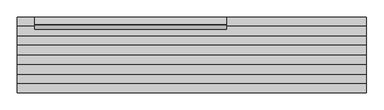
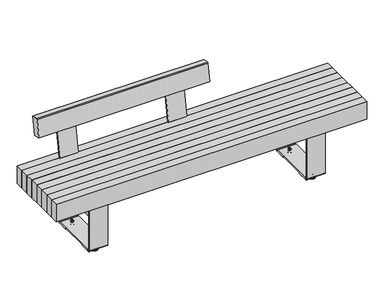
"""IFC4 building model written with IfcOpenShell, lengths in millimetres: furniture geometry, Roros Produkter - Femunden - Bench - 34365 : Roros Produkter - Femunden - Bench - 34365."""

from ifc_helpers import new_model, si_unit, point, frame, frame_2d, origin, place, context, project, spatial, polyline, circle_curve, ellipse_curve, trimmed, segment, composite_curve, outline, extrude, source, transform, mapped, element, save
from ifc_brep_helpers import plane_surface, cylinder_surface, revolved_surface, advanced_brep


def furniture_1bf54539(model_context):
    return source(origin(), model_context, "Body", "SolidModel", [
        advanced_brep(
        [(-640.0, 160.0527389, 465.6907007), (-640.0, 160.0527389, 349.7), (-640.0, 165.0527389, 349.7), (-640.0, 165.0527389, 465.2180282), (-640.0, 214.1546168, 755.6299996), (-640.0, 211.1768601, 755.6299996), (-760.0, 165.0527389, 465.2180282), (-760.0, 165.0527389, 349.7), (-760.0, 160.0527389, 349.7), (-760.0, 160.0527389, 465.6907007), (-760.0, 211.1768601, 755.6299996), (-760.0, 214.1546168, 755.6299996), (-645.0, 212.058495, 760.6299996), (-755.0, 212.058495, 760.6299996), (-755.0, 215.0, 760.6299996), (-645.0, 215.0, 760.6299996)],
        [
            (0, 1),
            (1, 2),
            (2, 3),
            (3, 4),
            (4, 5),
            (5, 0),
            (6, 7),
            (7, 8),
            (8, 9),
            (9, 10),
            (10, 11),
            (11, 6),
            (0, 9),
            (8, 1),
            (7, 2),
            (6, 3),
            (5, 12, ellipse_curve(frame((-645.0, 211.1768601, 755.6299996), z_axis=(0.0, -0.9848077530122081, 0.17364817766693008), x_axis=(0.0, 0.17364817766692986, 0.9848077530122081)), 5.0771331, 5.0)),
            (12, 13),
            (13, 10, ellipse_curve(frame((-755.0, 211.1768601, 755.6299996), z_axis=(0.0, -0.9848077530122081, 0.17364817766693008), x_axis=(0.0, 0.17364817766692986, 0.9848077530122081)), 5.0771331, 5.0)),
            (11, 14, ellipse_curve(frame((-755.0, 214.1546168, 755.6299996), z_axis=(0.0, 0.9860058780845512, -0.16671055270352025), x_axis=(0.0, 0.16671055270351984, 0.9860058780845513)), 5.0709637, 5.0)),
            (14, 15),
            (15, 4, ellipse_curve(frame((-645.0, 214.1546168, 755.6299996), z_axis=(0.0, 0.9860058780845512, -0.16671055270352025), x_axis=(0.0, 0.16671055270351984, 0.9860058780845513)), 5.0709637, 5.0)),
            (13, 14),
            (12, 15),
        ],
        [
            plane_surface(frame((-640.0, 160.0527389, 464.7720697), z_axis=(1.0, 0.0, 0.0), x_axis=(0.0, 0.0, -1.0))),
            plane_surface(frame((-760.0, 160.0527389, 464.7720697), z_axis=(-1.0, 0.0, 0.0), x_axis=(0.0, 0.0, 1.0))),
            plane_surface(frame((-640.0, 160.0527389, 465.6907007), z_axis=(0.0, -1.0, 0.0), x_axis=(-1.0, 0.0, 0.0))),
            plane_surface(frame((-640.0, 160.0527389, 349.7), z_axis=(0.0, 0.0, -1.0), x_axis=(-1.0, 0.0, 0.0))),
            plane_surface(frame((-640.0, 165.0527389, 349.7), z_axis=(0.0, 1.0, 0.0), x_axis=(-1.0, 0.0, 0.0))),
            plane_surface(frame((-640.0, 212.1471922, 761.1330266), z_axis=(0.0, -0.9848077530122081, 0.17364817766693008), x_axis=(-1.0, 0.0, 0.0))),
            plane_surface(frame((-640.0, 165.0527389, 465.2180282), z_axis=(0.0, 0.9860058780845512, -0.16671055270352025), x_axis=(-1.0, 0.0, 0.0))),
            cylinder_surface(frame((-755.0, 258.5708955, 755.6299996), z_axis=(0.0, 1.0, 0.0), x_axis=(1.0, 0.0, 0.0)), 5.0),
            plane_surface(frame((-755.0, 184.0, 760.6299996), z_axis=(0.0, 0.0, 1.0), x_axis=(0.0, 1.0, 0.0))),
            cylinder_surface(frame((-645.0, 258.5708955, 755.6299996), z_axis=(0.0, 1.0, 0.0), x_axis=(-1.0, 0.0, 0.0)), 5.0),
        ],
        [
            (0, [[1, 2, 3, 4, 5, 6]]),
            (1, [[7, 8, 9, 10, 11, 12]]),
            (2, [[-1, 13, -9, 14]]),
            (3, [[-2, -14, -8, 15]]),
            (4, [[-3, -15, -7, 16]]),
            (5, [[-13, -6, 17, 18, 19, -10]]),
            (6, [[-16, -12, 20, 21, 22, -4]]),
            (7, [[23, -20, -11, -19]]),
            (8, [[-23, -18, 24, -21]]),
            (9, [[-24, -17, -5, -22]]),
        ],
    ),
        advanced_brep(
        [(60.0, 160.0527389, 465.6907007), (60.0, 160.0527389, 349.7), (60.0, 165.0527389, 349.7), (60.0, 165.0527389, 465.2180282), (60.0, 214.1546168, 755.6299996), (60.0, 211.1768601, 755.6299996), (-60.0, 165.0527389, 465.2180282), (-60.0, 165.0527389, 349.7), (-60.0, 160.0527389, 349.7), (-60.0, 160.0527389, 465.6907007), (-60.0, 211.1768601, 755.6299996), (-60.0, 214.1546168, 755.6299996), (55.0, 212.058495, 760.6299996), (-55.0, 212.058495, 760.6299996), (-55.0, 215.0, 760.6299996), (55.0, 215.0, 760.6299996)],
        [
            (0, 1),
            (1, 2),
            (2, 3),
            (3, 4),
            (4, 5),
            (5, 0),
            (6, 7),
            (7, 8),
            (8, 9),
            (9, 10),
            (10, 11),
            (11, 6),
            (0, 9),
            (8, 1),
            (7, 2),
            (6, 3),
            (5, 12, ellipse_curve(frame((55.0, 211.1768601, 755.6299996), z_axis=(0.0, -0.9848077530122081, 0.17364817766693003), x_axis=(0.0, 0.17364817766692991, 0.9848077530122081)), 5.0771331, 5.0)),
            (12, 13),
            (13, 10, ellipse_curve(frame((-55.0, 211.1768601, 755.6299996), z_axis=(0.0, -0.9848077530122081, 0.17364817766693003), x_axis=(0.0, 0.17364817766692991, 0.9848077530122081)), 5.0771331, 5.0)),
            (11, 14, ellipse_curve(frame((-55.0, 214.1546168, 755.6299996), z_axis=(0.0, 0.9860058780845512, -0.16671055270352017), x_axis=(0.0, 0.16671055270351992, 0.9860058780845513)), 5.0709637, 5.0)),
            (14, 15),
            (15, 4, ellipse_curve(frame((55.0, 214.1546168, 755.6299996), z_axis=(0.0, 0.9860058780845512, -0.16671055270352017), x_axis=(0.0, 0.16671055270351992, 0.9860058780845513)), 5.0709637, 5.0)),
            (13, 14),
            (12, 15),
        ],
        [
            plane_surface(frame((60.0, 160.0527389, 464.7720697), z_axis=(1.0, 0.0, 0.0), x_axis=(0.0, 0.0, -1.0))),
            plane_surface(frame((-60.0, 160.0527389, 464.7720697), z_axis=(-1.0, 0.0, 0.0), x_axis=(0.0, 0.0, 1.0))),
            plane_surface(frame((60.0, 160.0527389, 465.6907007), z_axis=(0.0, -1.0, 0.0), x_axis=(-1.0, 0.0, 0.0))),
            plane_surface(frame((60.0, 160.0527389, 349.7), z_axis=(0.0, 0.0, -1.0), x_axis=(-1.0, 0.0, 0.0))),
            plane_surface(frame((60.0, 165.0527389, 349.7), z_axis=(0.0, 1.0, 0.0), x_axis=(-1.0, 0.0, 0.0))),
            plane_surface(frame((60.0, 212.1471922, 761.1330266), z_axis=(0.0, -0.9848077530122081, 0.17364817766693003), x_axis=(-1.0, 0.0, 0.0))),
            plane_surface(frame((60.0, 165.0527389, 465.2180282), z_axis=(0.0, 0.9860058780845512, -0.16671055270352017), x_axis=(-1.0, 0.0, 0.0))),
            cylinder_surface(frame((-55.0, -115.0, 755.6299996), z_axis=(0.0, 1.0, 0.0), x_axis=(1.0, 0.0, 0.0)), 5.0),
            plane_surface(frame((-55.0, 184.0, 760.6299996), z_axis=(0.0, 0.0, 1.0), x_axis=(0.0, 1.0, 0.0))),
            cylinder_surface(frame((55.0, -115.0, 755.6299996), z_axis=(0.0, 1.0, 0.0), x_axis=(-1.0, 0.0, 0.0)), 5.0),
        ],
        [
            (0, [[1, 2, 3, 4, 5, 6]]),
            (1, [[7, 8, 9, 10, 11, 12]]),
            (2, [[-1, 13, -9, 14]]),
            (3, [[-2, -14, -8, 15]]),
            (4, [[-3, -15, -7, 16]]),
            (5, [[-13, -6, 17, 18, 19, -10]]),
            (6, [[-16, -12, 20, 21, 22, -4]]),
            (7, [[23, -20, -11, -19]]),
            (8, [[-23, -18, 24, -21]]),
            (9, [[-24, -17, -5, -22]]),
        ],
    ),
        extrude(outline(composite_curve([segment(polyline([(172.4690095, 778.2836269), (215.0, 770.7842657), (192.9931538, 652.8134731), (148.6768049, 660.6276411), (168.9936417, 775.8501482)]), True, "CONTINUOUS"), segment(trimmed(circle_curve(frame_2d((171.9480649, 775.3292036)), 3.0), [point((168.9936417, 775.8501482))], [point((172.4690095, 778.2836269))], False, "CARTESIAN"), True, "CONTINUOUS")], self_intersect=False)), frame((-900.0, 0.0, 0.0), z_axis=(1.0, 0.0, 0.0), x_axis=(0.0, 1.0, 0.0)), (0.0, 0.0, 1.0), 1100.0),
        extrude(outline(composite_curve([segment(trimmed(circle_curve(frame_2d((719.15, 154.0)), 6.0), [point((725.15, 154.0))], [point((719.15, 160.0))], True, "CARTESIAN"), True, "CONTINUOUS"), segment(polyline([(719.15, 160.0), (680.15, 160.0), (680.15, 165.0), (720.15, 165.0)]), True, "CONTINUOUS"), segment(trimmed(circle_curve(frame_2d((720.15, 155.0)), 10.0), [point((720.15, 165.0))], [point((730.15, 155.0))], False, "CARTESIAN"), True, "CONTINUOUS"), segment(polyline([(730.15, 155.0), (730.15, -154.0)]), True, "CONTINUOUS"), segment(trimmed(circle_curve(frame_2d((720.15, -154.0)), 10.0), [point((730.15, -154.0))], [point((720.15, -164.0))], False, "CARTESIAN"), True, "CONTINUOUS"), segment(polyline([(720.15, -164.0), (680.15, -164.0), (680.15, -159.0), (719.15, -159.0)]), True, "CONTINUOUS"), segment(trimmed(circle_curve(frame_2d((719.15, -153.0)), 6.0), [point((719.15, -159.0))], [point((725.15, -153.0))], True, "CARTESIAN"), True, "CONTINUOUS"), segment(polyline([(725.15, -153.0), (725.15, 154.0)]), True, "CONTINUOUS")], self_intersect=False)), frame((0.0, 0.0, 225.6), z_axis=(0.0, 0.0, 1.0), x_axis=(1.0, 0.0, 0.0)), (0.0, 0.0, 1.0), 90.0),
        advanced_brep(
        [(700.0, -119.5, 43.4), (700.0, -129.5, 43.4), (700.0, -133.0, 43.4), (700.0, -116.0, 43.4), (700.0, -119.5, 48.0), (700.0, -129.5, 48.0), (700.0, -124.5, 48.0), (700.0, -104.5, 0.0), (700.0, -144.5, 0.0), (700.0, -124.5, 0.0), (700.0, -104.5, 4.3619998), (700.0, -144.5, 4.3619998), (700.0, -105.4699238, 6.0763344), (700.0, -143.5300761, 6.0763344), (700.0, -112.0, 10.0), (700.0, -137.0, 10.0), (700.0, -115.25, 10.0), (700.0, -133.75, 10.0), (700.0, -115.25, 12.0), (700.0, -133.75, 12.0), (700.0, -117.584004, 12.0), (700.0, -131.415996, 12.0), (700.0, -117.584004, 18.0), (700.0, -131.415996, 18.0), (700.0, -116.0, 18.0), (700.0, -133.0, 18.0), (700.0, -116.0, 25.7), (700.0, -133.0, 25.7), (700.0, -119.5, 25.7), (700.0, -129.5, 25.7), (700.0, -119.5, 35.7), (700.0, -129.5, 35.7), (700.0, -116.0, 35.7), (700.0, -133.0, 35.7)],
        [
            (0, 1, circle_curve(frame((700.0, -124.5, 43.4), z_axis=(0.0, 0.0, -1.0), x_axis=(0.0, -1.0, 0.0)), 5.0)),
            (1, 2),
            (2, 3, circle_curve(frame((700.0, -124.5, 43.4), z_axis=(0.0, 0.0, 1.0), x_axis=(0.0, -1.0, 0.0)), 8.5)),
            (3, 0),
            (1, 0, circle_curve(frame((700.0, -124.5, 43.4), z_axis=(0.0, 0.0, -1.0), x_axis=(0.0, -1.0, 0.0)), 5.0)),
            (3, 2, circle_curve(frame((700.0, -124.5, 43.4), z_axis=(0.0, 0.0, 1.0), x_axis=(0.0, -1.0, 0.0)), 8.5)),
            (4, 5, circle_curve(frame((700.0, -124.5, 48.0), z_axis=(0.0, 0.0, -1.0), x_axis=(0.0, -1.0, 0.0)), 5.0)),
            (5, 1),
            (0, 4),
            (5, 4, circle_curve(frame((700.0, -124.5, 48.0), z_axis=(0.0, 0.0, -1.0), x_axis=(0.0, -1.0, 0.0)), 5.0)),
            (6, 5),
            (4, 6),
            (7, 8, circle_curve(frame((700.0, -124.5, 0.0), z_axis=(0.0, 0.0, -1.0), x_axis=(0.0, -1.0, 0.0)), 20.0)),
            (8, 9),
            (9, 7),
            (8, 7, circle_curve(frame((700.0, -124.5, 0.0), z_axis=(0.0, 0.0, -1.0), x_axis=(0.0, -1.0, 0.0)), 20.0)),
            (10, 11, circle_curve(frame((700.0, -124.5, 4.3619998), z_axis=(0.0, 0.0, -1.0), x_axis=(0.0, -1.0, 0.0)), 20.0)),
            (11, 8),
            (7, 10),
            (11, 10, circle_curve(frame((700.0, -124.5, 4.3619998), z_axis=(0.0, 0.0, -1.0), x_axis=(0.0, -1.0, 0.0)), 20.0)),
            (12, 13, circle_curve(frame((700.0, -124.5, 6.0763344), z_axis=(0.0, 0.0, -1.0), x_axis=(0.0, -1.0, 0.0)), 19.0300761)),
            (13, 11, circle_curve(frame((700.0, -142.5, 4.3619998), z_axis=(1.0, 0.0, 0.0), x_axis=(0.0, 1.0, 0.0)), 2.0)),
            (10, 12, circle_curve(frame((700.0, -106.5, 4.3619998), z_axis=(1.0, 0.0, 0.0), x_axis=(0.0, -1.0, 0.0)), 2.0)),
            (13, 12, circle_curve(frame((700.0, -124.5, 6.0763344), z_axis=(0.0, 0.0, -1.0), x_axis=(0.0, -1.0, 0.0)), 19.0300761)),
            (14, 15, circle_curve(frame((700.0, -124.5, 10.0), z_axis=(0.0, 0.0, -1.0), x_axis=(0.0, -1.0, 0.0)), 12.5)),
            (15, 13),
            (12, 14),
            (15, 14, circle_curve(frame((700.0, -124.5, 10.0), z_axis=(0.0, 0.0, -1.0), x_axis=(0.0, -1.0, 0.0)), 12.5)),
            (16, 17, circle_curve(frame((700.0, -124.5, 10.0), z_axis=(0.0, 0.0, -1.0), x_axis=(0.0, -1.0, 0.0)), 9.25)),
            (17, 15),
            (14, 16),
            (17, 16, circle_curve(frame((700.0, -124.5, 10.0), z_axis=(0.0, 0.0, -1.0), x_axis=(0.0, -1.0, 0.0)), 9.25)),
            (18, 19, circle_curve(frame((700.0, -124.5, 12.0), z_axis=(0.0, 0.0, -1.0), x_axis=(0.0, -1.0, 0.0)), 9.25)),
            (19, 17),
            (16, 18),
            (19, 18, circle_curve(frame((700.0, -124.5, 12.0), z_axis=(0.0, 0.0, -1.0), x_axis=(0.0, -1.0, 0.0)), 9.25)),
            (20, 21, circle_curve(frame((700.0, -124.5, 12.0), z_axis=(0.0, 0.0, -1.0), x_axis=(0.0, -1.0, 0.0)), 6.915996)),
            (21, 19),
            (18, 20),
            (21, 20, circle_curve(frame((700.0, -124.5, 12.0), z_axis=(0.0, 0.0, -1.0), x_axis=(0.0, -1.0, 0.0)), 6.915996)),
            (22, 23, circle_curve(frame((700.0, -124.5, 18.0), z_axis=(0.0, 0.0, -1.0), x_axis=(0.0, -1.0, 0.0)), 6.915996)),
            (23, 21),
            (20, 22),
            (23, 22, circle_curve(frame((700.0, -124.5, 18.0), z_axis=(0.0, 0.0, -1.0), x_axis=(0.0, -1.0, 0.0)), 6.915996)),
            (24, 25, circle_curve(frame((700.0, -124.5, 18.0), z_axis=(0.0, 0.0, -1.0), x_axis=(0.0, -1.0, 0.0)), 8.5)),
            (25, 23),
            (22, 24),
            (25, 24, circle_curve(frame((700.0, -124.5, 18.0), z_axis=(0.0, 0.0, -1.0), x_axis=(0.0, -1.0, 0.0)), 8.5)),
            (26, 27, circle_curve(frame((700.0, -124.5, 25.7), z_axis=(0.0, 0.0, -1.0), x_axis=(0.0, -1.0, 0.0)), 8.5)),
            (27, 25),
            (24, 26),
            (27, 26, circle_curve(frame((700.0, -124.5, 25.7), z_axis=(0.0, 0.0, -1.0), x_axis=(0.0, -1.0, 0.0)), 8.5)),
            (28, 29, circle_curve(frame((700.0, -124.5, 25.7), z_axis=(0.0, 0.0, -1.0), x_axis=(0.0, -1.0, 0.0)), 5.0)),
            (29, 27),
            (26, 28),
            (29, 28, circle_curve(frame((700.0, -124.5, 25.7), z_axis=(0.0, 0.0, -1.0), x_axis=(0.0, -1.0, 0.0)), 5.0)),
            (30, 31, circle_curve(frame((700.0, -124.5, 35.7), z_axis=(0.0, 0.0, -1.0), x_axis=(0.0, -1.0, 0.0)), 5.0)),
            (31, 29),
            (28, 30),
            (31, 30, circle_curve(frame((700.0, -124.5, 35.7), z_axis=(0.0, 0.0, -1.0), x_axis=(0.0, -1.0, 0.0)), 5.0)),
            (32, 33, circle_curve(frame((700.0, -124.5, 35.7), z_axis=(0.0, 0.0, -1.0), x_axis=(0.0, -1.0, 0.0)), 8.5)),
            (33, 31),
            (30, 32),
            (33, 32, circle_curve(frame((700.0, -124.5, 35.7), z_axis=(0.0, 0.0, -1.0), x_axis=(0.0, -1.0, 0.0)), 8.5)),
            (2, 33),
            (32, 3),
        ],
        [
            plane_surface(frame((700.0, -124.5, 43.4), z_axis=(0.0, 0.0, 1.0), x_axis=(0.0, -1.0, 0.0))),
            cylinder_surface(frame((700.0, -124.5, 48.0), z_axis=(0.0, 0.0, 1.0), x_axis=(0.0, -1.0, 0.0)), 5.0),
            plane_surface(frame((700.0, -124.5, 48.0), z_axis=(0.0, 0.0, 1.0), x_axis=(0.0, -1.0, 0.0))),
            plane_surface(frame((700.0, -124.5, 0.0), z_axis=(0.0, 0.0, -1.0), x_axis=(0.0, -1.0, 0.0))),
            cylinder_surface(frame((700.0, -124.5, 48.0), z_axis=(0.0, 0.0, 1.0), x_axis=(0.0, -1.0, 0.0)), 20.0),
            revolved_surface(trimmed(ellipse_curve(frame((700.0, -142.5, 4.3619998), z_axis=(-1.0, 0.0, 0.0), x_axis=(0.0, 1.0, 0.0)), 2.0, 2.0), [point((700.0, -144.5, 4.3619998))], [point((700.0, -143.5300761, 6.0763344))], True, "CARTESIAN"), (700.0, -124.5, 48.0), (0.0, 0.0, 1.0)),
            revolved_surface(polyline([(700.0, -143.5300761, 6.0763344), (700.0, -137.0, 10.0)]), (700.0, -124.5, 48.0), (0.0, 0.0, 1.0)),
            plane_surface(frame((700.0, -124.5, 10.0), z_axis=(0.0, 0.0, 1.0), x_axis=(0.0, -1.0, 0.0))),
            cylinder_surface(frame((700.0, -124.5, 48.0), z_axis=(0.0, 0.0, 1.0), x_axis=(0.0, -1.0, 0.0)), 9.25),
            plane_surface(frame((700.0, -124.5, 12.0), z_axis=(0.0, 0.0, 1.0), x_axis=(0.0, -1.0, 0.0))),
            cylinder_surface(frame((700.0, -124.5, 48.0), z_axis=(0.0, 0.0, 1.0), x_axis=(0.0, -1.0, 0.0)), 6.915996),
            plane_surface(frame((700.0, -124.5, 18.0), z_axis=(0.0, 0.0, -1.0), x_axis=(0.0, -1.0, 0.0))),
            cylinder_surface(frame((700.0, -124.5, 48.0), z_axis=(0.0, 0.0, 1.0), x_axis=(0.0, -1.0, 0.0)), 8.5),
            plane_surface(frame((700.0, -124.5, 25.7), z_axis=(0.0, 0.0, 1.0), x_axis=(0.0, -1.0, 0.0))),
            plane_surface(frame((700.0, -124.5, 35.7), z_axis=(0.0, 0.0, -1.0), x_axis=(0.0, -1.0, 0.0))),
        ],
        [
            (0, [[1, 2, 3, 4]]),
            (0, [[5, -4, 6, -2]]),
            (1, [[7, 8, -1, 9]]),
            (1, [[10, -9, -5, -8]]),
            (2, [[11, -7, 12]]),
            (2, [[-12, -10, -11]]),
            (3, [[13, 14, 15]]),
            (3, [[16, -15, -14]]),
            (4, [[17, 18, -13, 19]]),
            (4, [[20, -19, -16, -18]]),
            (5, [[21, 22, -17, 23]]),
            (5, [[24, -23, -20, -22]]),
            (6, [[25, 26, -21, 27]]),
            (6, [[28, -27, -24, -26]]),
            (7, [[29, 30, -25, 31]]),
            (7, [[32, -31, -28, -30]]),
            (8, [[33, 34, -29, 35]]),
            (8, [[36, -35, -32, -34]]),
            (9, [[37, 38, -33, 39]]),
            (9, [[40, -39, -36, -38]]),
            (10, [[41, 42, -37, 43]]),
            (10, [[44, -43, -40, -42]]),
            (11, [[45, 46, -41, 47]]),
            (11, [[48, -47, -44, -46]]),
            (12, [[49, 50, -45, 51]]),
            (12, [[52, -51, -48, -50]]),
            (13, [[53, 54, -49, 55]]),
            (13, [[56, -55, -52, -54]]),
            (1, [[57, 58, -53, 59]]),
            (1, [[60, -59, -56, -58]]),
            (14, [[61, 62, -57, 63]]),
            (14, [[64, -63, -60, -62]]),
            (12, [[-3, 65, -61, 66]]),
            (12, [[-6, -66, -64, -65]]),
        ],
    ),
        advanced_brep(
        [(700.0, 116.0, 43.4), (700.0, 133.0, 43.4), (700.0, 129.5, 43.4), (700.0, 119.5, 43.4), (700.0, 129.5, 48.0), (700.0, 119.5, 48.0), (700.0, 124.5, 48.0), (700.0, 124.5, 0.0), (700.0, 144.5, 0.0), (700.0, 104.5, 0.0), (700.0, 144.5, 4.3619998), (700.0, 104.5, 4.3619998), (700.0, 143.5300761, 6.0763344), (700.0, 105.4699238, 6.0763344), (700.0, 137.0, 10.0), (700.0, 112.0, 10.0), (700.0, 133.75, 10.0), (700.0, 115.25, 10.0), (700.0, 133.75, 12.0), (700.0, 115.25, 12.0), (700.0, 131.415996, 12.0), (700.0, 117.584004, 12.0), (700.0, 131.415996, 18.0), (700.0, 117.584004, 18.0), (700.0, 133.0, 18.0), (700.0, 116.0, 18.0), (700.0, 133.0, 25.7), (700.0, 116.0, 25.7), (700.0, 129.5, 25.7), (700.0, 119.5, 25.7), (700.0, 129.5, 35.7), (700.0, 119.5, 35.7), (700.0, 133.0, 35.7), (700.0, 116.0, 35.7)],
        [
            (0, 1, circle_curve(frame((700.0, 124.5, 43.4), z_axis=(0.0, 0.0, 1.0), x_axis=(0.0, 1.0, 0.0)), 8.5)),
            (1, 2),
            (2, 3, circle_curve(frame((700.0, 124.5, 43.4), z_axis=(0.0, 0.0, -1.0), x_axis=(0.0, 1.0, 0.0)), 5.0)),
            (3, 0),
            (1, 0, circle_curve(frame((700.0, 124.5, 43.4), z_axis=(0.0, 0.0, 1.0), x_axis=(0.0, 1.0, 0.0)), 8.5)),
            (3, 2, circle_curve(frame((700.0, 124.5, 43.4), z_axis=(0.0, 0.0, -1.0), x_axis=(0.0, 1.0, 0.0)), 5.0)),
            (2, 4),
            (4, 5, circle_curve(frame((700.0, 124.5, 48.0), z_axis=(0.0, 0.0, -1.0), x_axis=(0.0, 1.0, 0.0)), 5.0)),
            (5, 3),
            (5, 4, circle_curve(frame((700.0, 124.5, 48.0), z_axis=(0.0, 0.0, -1.0), x_axis=(0.0, 1.0, 0.0)), 5.0)),
            (4, 6),
            (6, 5),
            (7, 8),
            (8, 9, circle_curve(frame((700.0, 124.5, 0.0), z_axis=(0.0, 0.0, -1.0), x_axis=(0.0, 1.0, 0.0)), 20.0)),
            (9, 7),
            (9, 8, circle_curve(frame((700.0, 124.5, 0.0), z_axis=(0.0, 0.0, -1.0), x_axis=(0.0, 1.0, 0.0)), 20.0)),
            (8, 10),
            (10, 11, circle_curve(frame((700.0, 124.5, 4.3619998), z_axis=(0.0, 0.0, -1.0), x_axis=(0.0, 1.0, 0.0)), 20.0)),
            (11, 9),
            (11, 10, circle_curve(frame((700.0, 124.5, 4.3619998), z_axis=(0.0, 0.0, -1.0), x_axis=(0.0, 1.0, 0.0)), 20.0)),
            (10, 12, circle_curve(frame((700.0, 142.5, 4.3619998), z_axis=(1.0, 0.0, 0.0), x_axis=(0.0, -1.0, 0.0)), 2.0)),
            (12, 13, circle_curve(frame((700.0, 124.5, 6.0763344), z_axis=(0.0, 0.0, -1.0), x_axis=(0.0, 1.0, 0.0)), 19.0300761)),
            (13, 11, circle_curve(frame((700.0, 106.5, 4.3619998), z_axis=(1.0, 0.0, 0.0), x_axis=(0.0, 1.0, 0.0)), 2.0)),
            (13, 12, circle_curve(frame((700.0, 124.5, 6.0763344), z_axis=(0.0, 0.0, -1.0), x_axis=(0.0, 1.0, 0.0)), 19.0300761)),
            (12, 14),
            (14, 15, circle_curve(frame((700.0, 124.5, 10.0), z_axis=(0.0, 0.0, -1.0), x_axis=(0.0, 1.0, 0.0)), 12.5)),
            (15, 13),
            (15, 14, circle_curve(frame((700.0, 124.5, 10.0), z_axis=(0.0, 0.0, -1.0), x_axis=(0.0, 1.0, 0.0)), 12.5)),
            (14, 16),
            (16, 17, circle_curve(frame((700.0, 124.5, 10.0), z_axis=(0.0, 0.0, -1.0), x_axis=(0.0, 1.0, 0.0)), 9.25)),
            (17, 15),
            (17, 16, circle_curve(frame((700.0, 124.5, 10.0), z_axis=(0.0, 0.0, -1.0), x_axis=(0.0, 1.0, 0.0)), 9.25)),
            (16, 18),
            (18, 19, circle_curve(frame((700.0, 124.5, 12.0), z_axis=(0.0, 0.0, -1.0), x_axis=(0.0, 1.0, 0.0)), 9.25)),
            (19, 17),
            (19, 18, circle_curve(frame((700.0, 124.5, 12.0), z_axis=(0.0, 0.0, -1.0), x_axis=(0.0, 1.0, 0.0)), 9.25)),
            (18, 20),
            (20, 21, circle_curve(frame((700.0, 124.5, 12.0), z_axis=(0.0, 0.0, -1.0), x_axis=(0.0, 1.0, 0.0)), 6.915996)),
            (21, 19),
            (21, 20, circle_curve(frame((700.0, 124.5, 12.0), z_axis=(0.0, 0.0, -1.0), x_axis=(0.0, 1.0, 0.0)), 6.915996)),
            (20, 22),
            (22, 23, circle_curve(frame((700.0, 124.5, 18.0), z_axis=(0.0, 0.0, -1.0), x_axis=(0.0, 1.0, 0.0)), 6.915996)),
            (23, 21),
            (23, 22, circle_curve(frame((700.0, 124.5, 18.0), z_axis=(0.0, 0.0, -1.0), x_axis=(0.0, 1.0, 0.0)), 6.915996)),
            (22, 24),
            (24, 25, circle_curve(frame((700.0, 124.5, 18.0), z_axis=(0.0, 0.0, -1.0), x_axis=(0.0, 1.0, 0.0)), 8.5)),
            (25, 23),
            (25, 24, circle_curve(frame((700.0, 124.5, 18.0), z_axis=(0.0, 0.0, -1.0), x_axis=(0.0, 1.0, 0.0)), 8.5)),
            (24, 26),
            (26, 27, circle_curve(frame((700.0, 124.5, 25.7), z_axis=(0.0, 0.0, -1.0), x_axis=(0.0, 1.0, 0.0)), 8.5)),
            (27, 25),
            (27, 26, circle_curve(frame((700.0, 124.5, 25.7), z_axis=(0.0, 0.0, -1.0), x_axis=(0.0, 1.0, 0.0)), 8.5)),
            (26, 28),
            (28, 29, circle_curve(frame((700.0, 124.5, 25.7), z_axis=(0.0, 0.0, -1.0), x_axis=(0.0, 1.0, 0.0)), 5.0)),
            (29, 27),
            (29, 28, circle_curve(frame((700.0, 124.5, 25.7), z_axis=(0.0, 0.0, -1.0), x_axis=(0.0, 1.0, 0.0)), 5.0)),
            (28, 30),
            (30, 31, circle_curve(frame((700.0, 124.5, 35.7), z_axis=(0.0, 0.0, -1.0), x_axis=(0.0, 1.0, 0.0)), 5.0)),
            (31, 29),
            (31, 30, circle_curve(frame((700.0, 124.5, 35.7), z_axis=(0.0, 0.0, -1.0), x_axis=(0.0, 1.0, 0.0)), 5.0)),
            (30, 32),
            (32, 33, circle_curve(frame((700.0, 124.5, 35.7), z_axis=(0.0, 0.0, -1.0), x_axis=(0.0, 1.0, 0.0)), 8.5)),
            (33, 31),
            (33, 32, circle_curve(frame((700.0, 124.5, 35.7), z_axis=(0.0, 0.0, -1.0), x_axis=(0.0, 1.0, 0.0)), 8.5)),
            (32, 1),
            (0, 33),
        ],
        [
            plane_surface(frame((700.0, 124.5, 43.4), z_axis=(0.0, 0.0, 1.0), x_axis=(0.0, 1.0, 0.0))),
            cylinder_surface(frame((700.0, 124.5, 48.0), z_axis=(0.0, 0.0, -1.0), x_axis=(0.0, 1.0, 0.0)), 5.0),
            plane_surface(frame((700.0, 124.5, 48.0), z_axis=(0.0, 0.0, 1.0), x_axis=(0.0, 1.0, 0.0))),
            plane_surface(frame((700.0, 124.5, 0.0), z_axis=(0.0, 0.0, -1.0), x_axis=(0.0, 1.0, 0.0))),
            cylinder_surface(frame((700.0, 124.5, 48.0), z_axis=(0.0, 0.0, -1.0), x_axis=(0.0, 1.0, 0.0)), 20.0),
            revolved_surface(trimmed(ellipse_curve(frame((700.0, 142.5, 4.3619998), z_axis=(-1.0, 0.0, 0.0), x_axis=(0.0, -1.0, 0.0)), 2.0, 2.0), [point((700.0, 143.5300761, 6.0763344))], [point((700.0, 144.5, 4.3619998))], True, "CARTESIAN"), (700.0, 124.5, 48.0), (0.0, 0.0, -1.0)),
            revolved_surface(polyline([(700.0, 137.0, 10.0), (700.0, 143.5300761, 6.0763344)]), (700.0, 124.5, 48.0), (0.0, 0.0, -1.0)),
            plane_surface(frame((700.0, 124.5, 10.0), z_axis=(0.0, 0.0, 1.0), x_axis=(0.0, 1.0, 0.0))),
            cylinder_surface(frame((700.0, 124.5, 48.0), z_axis=(0.0, 0.0, -1.0), x_axis=(0.0, 1.0, 0.0)), 9.25),
            plane_surface(frame((700.0, 124.5, 12.0), z_axis=(0.0, 0.0, 1.0), x_axis=(0.0, 1.0, 0.0))),
            cylinder_surface(frame((700.0, 124.5, 48.0), z_axis=(0.0, 0.0, -1.0), x_axis=(0.0, 1.0, 0.0)), 6.915996),
            plane_surface(frame((700.0, 124.5, 18.0), z_axis=(0.0, 0.0, -1.0), x_axis=(0.0, 1.0, 0.0))),
            cylinder_surface(frame((700.0, 124.5, 48.0), z_axis=(0.0, 0.0, -1.0), x_axis=(0.0, 1.0, 0.0)), 8.5),
            plane_surface(frame((700.0, 124.5, 25.7), z_axis=(0.0, 0.0, 1.0), x_axis=(0.0, 1.0, 0.0))),
            plane_surface(frame((700.0, 124.5, 35.7), z_axis=(0.0, 0.0, -1.0), x_axis=(0.0, 1.0, 0.0))),
        ],
        [
            (0, [[1, 2, 3, 4]]),
            (0, [[5, -4, 6, -2]]),
            (1, [[-3, 7, 8, 9]]),
            (1, [[-6, -9, 10, -7]]),
            (2, [[-8, 11, 12]]),
            (2, [[-10, -12, -11]]),
            (3, [[13, 14, 15]]),
            (3, [[-15, 16, -13]]),
            (4, [[-14, 17, 18, 19]]),
            (4, [[-16, -19, 20, -17]]),
            (5, [[-18, 21, 22, 23]]),
            (5, [[-20, -23, 24, -21]]),
            (6, [[-22, 25, 26, 27]]),
            (6, [[-24, -27, 28, -25]]),
            (7, [[-26, 29, 30, 31]]),
            (7, [[-28, -31, 32, -29]]),
            (8, [[-30, 33, 34, 35]]),
            (8, [[-32, -35, 36, -33]]),
            (9, [[-34, 37, 38, 39]]),
            (9, [[-36, -39, 40, -37]]),
            (10, [[-38, 41, 42, 43]]),
            (10, [[-40, -43, 44, -41]]),
            (11, [[-42, 45, 46, 47]]),
            (11, [[-44, -47, 48, -45]]),
            (12, [[-46, 49, 50, 51]]),
            (12, [[-48, -51, 52, -49]]),
            (13, [[-50, 53, 54, 55]]),
            (13, [[-52, -55, 56, -53]]),
            (1, [[-54, 57, 58, 59]]),
            (1, [[-56, -59, 60, -57]]),
            (14, [[-58, 61, 62, 63]]),
            (14, [[-60, -63, 64, -61]]),
            (12, [[-62, 65, -1, 66]]),
            (12, [[-64, -66, -5, -65]]),
        ],
    ),
        extrude(outline(composite_curve([segment(polyline([(165.0, 441.7), (170.0, 441.7), (170.0, 35.7)]), True, "CONTINUOUS"), segment(trimmed(circle_curve(frame_2d((160.0, 35.7)), 10.0), [point((170.0, 35.7))], [point((160.0, 25.7))], False, "CARTESIAN"), True, "CONTINUOUS"), segment(polyline([(160.0, 25.7), (90.0, 25.7), (90.0, 30.7), (-90.0, 30.7), (-90.0, 25.7), (-160.0, 25.7)]), True, "CONTINUOUS"), segment(trimmed(circle_curve(frame_2d((-160.0, 35.7)), 10.0), [point((-160.0, 25.7))], [point((-170.0, 35.7))], False, "CARTESIAN"), True, "CONTINUOUS"), segment(polyline([(-170.0, 35.7), (-170.0, 441.7), (-165.0, 441.7), (-165.0, 36.7)]), True, "CONTINUOUS"), segment(trimmed(circle_curve(frame_2d((-159.0, 36.7)), 6.0), [point((-165.0, 36.7))], [point((-159.0, 30.7))], True, "CARTESIAN"), True, "CONTINUOUS"), segment(polyline([(-159.0, 30.7), (-154.0, 30.7), (-154.0, 35.7), (154.0, 35.7), (154.0, 30.7), (159.0, 30.7)]), True, "CONTINUOUS"), segment(trimmed(circle_curve(frame_2d((159.0, 36.7)), 6.0), [point((159.0, 30.7))], [point((165.0, 36.7))], True, "CARTESIAN"), True, "CONTINUOUS"), segment(polyline([(165.0, 36.7), (165.0, 441.7)]), True, "CONTINUOUS")], self_intersect=False)), frame((640.0, 0.0, 0.0), z_axis=(1.0, 0.0, 0.0), x_axis=(0.0, 1.0, 0.0)), (0.0, 0.0, 1.0), 120.0),
        extrude(outline(composite_curve([segment(polyline([(-725.15, 154.0), (-725.15, -153.0)]), True, "CONTINUOUS"), segment(trimmed(circle_curve(frame_2d((-719.15, -153.0)), 6.0), [point((-725.15, -153.0))], [point((-719.15, -159.0))], True, "CARTESIAN"), True, "CONTINUOUS"), segment(polyline([(-719.15, -159.0), (-680.15, -159.0), (-680.15, -164.0), (-720.15, -164.0)]), True, "CONTINUOUS"), segment(trimmed(circle_curve(frame_2d((-720.15, -154.0)), 10.0), [point((-720.15, -164.0))], [point((-730.15, -154.0))], False, "CARTESIAN"), True, "CONTINUOUS"), segment(polyline([(-730.15, -154.0), (-730.15, 155.0)]), True, "CONTINUOUS"), segment(trimmed(circle_curve(frame_2d((-720.15, 155.0)), 10.0), [point((-730.15, 155.0))], [point((-720.15, 165.0))], False, "CARTESIAN"), True, "CONTINUOUS"), segment(polyline([(-720.15, 165.0), (-680.15, 165.0), (-680.15, 160.0), (-719.15, 160.0)]), True, "CONTINUOUS"), segment(trimmed(circle_curve(frame_2d((-719.15, 154.0)), 6.0), [point((-719.15, 160.0))], [point((-725.15, 154.0))], True, "CARTESIAN"), True, "CONTINUOUS")], self_intersect=False)), frame((0.0, 0.0, 225.6), z_axis=(0.0, 0.0, 1.0), x_axis=(1.0, 0.0, 0.0)), (0.0, 0.0, 1.0), 90.0),
        advanced_brep(
        [(-700.0, -116.0, 43.4), (-700.0, -133.0, 43.4), (-700.0, -129.5, 43.4), (-700.0, -119.5, 43.4), (-700.0, -129.5, 48.0), (-700.0, -119.5, 48.0), (-700.0, -124.5, 48.0), (-700.0, -124.5, 0.0), (-700.0, -144.5, 0.0), (-700.0, -104.5, 0.0), (-700.0, -144.5, 4.3619998), (-700.0, -104.5, 4.3619998), (-700.0, -143.5300761, 6.0763344), (-700.0, -105.4699238, 6.0763344), (-700.0, -137.0, 10.0), (-700.0, -112.0, 10.0), (-700.0, -133.75, 10.0), (-700.0, -115.25, 10.0), (-700.0, -133.75, 12.0), (-700.0, -115.25, 12.0), (-700.0, -131.415996, 12.0), (-700.0, -117.584004, 12.0), (-700.0, -131.415996, 18.0), (-700.0, -117.584004, 18.0), (-700.0, -133.0, 18.0), (-700.0, -116.0, 18.0), (-700.0, -133.0, 25.7), (-700.0, -116.0, 25.7), (-700.0, -129.5, 25.7), (-700.0, -119.5, 25.7), (-700.0, -129.5, 35.7), (-700.0, -119.5, 35.7), (-700.0, -133.0, 35.7), (-700.0, -116.0, 35.7)],
        [
            (0, 1, circle_curve(frame((-700.0, -124.5, 43.4), z_axis=(0.0, 0.0, 1.0), x_axis=(0.0, -1.0, 0.0)), 8.5)),
            (1, 2),
            (2, 3, circle_curve(frame((-700.0, -124.5, 43.4), z_axis=(0.0, 0.0, -1.0), x_axis=(0.0, -1.0, 0.0)), 5.0)),
            (3, 0),
            (1, 0, circle_curve(frame((-700.0, -124.5, 43.4), z_axis=(0.0, 0.0, 1.0), x_axis=(0.0, -1.0, 0.0)), 8.5)),
            (3, 2, circle_curve(frame((-700.0, -124.5, 43.4), z_axis=(0.0, 0.0, -1.0), x_axis=(0.0, -1.0, 0.0)), 5.0)),
            (2, 4),
            (4, 5, circle_curve(frame((-700.0, -124.5, 48.0), z_axis=(0.0, 0.0, -1.0), x_axis=(0.0, -1.0, 0.0)), 5.0)),
            (5, 3),
            (5, 4, circle_curve(frame((-700.0, -124.5, 48.0), z_axis=(0.0, 0.0, -1.0), x_axis=(0.0, -1.0, 0.0)), 5.0)),
            (4, 6),
            (6, 5),
            (7, 8),
            (8, 9, circle_curve(frame((-700.0, -124.5, 0.0), z_axis=(0.0, 0.0, -1.0), x_axis=(0.0, -1.0, 0.0)), 20.0)),
            (9, 7),
            (9, 8, circle_curve(frame((-700.0, -124.5, 0.0), z_axis=(0.0, 0.0, -1.0), x_axis=(0.0, -1.0, 0.0)), 20.0)),
            (8, 10),
            (10, 11, circle_curve(frame((-700.0, -124.5, 4.3619998), z_axis=(0.0, 0.0, -1.0), x_axis=(0.0, -1.0, 0.0)), 20.0)),
            (11, 9),
            (11, 10, circle_curve(frame((-700.0, -124.5, 4.3619998), z_axis=(0.0, 0.0, -1.0), x_axis=(0.0, -1.0, 0.0)), 20.0)),
            (10, 12, circle_curve(frame((-700.0, -142.5, 4.3619998), z_axis=(-1.0, 0.0, 0.0), x_axis=(0.0, 1.0, 0.0)), 2.0)),
            (12, 13, circle_curve(frame((-700.0, -124.5, 6.0763344), z_axis=(0.0, 0.0, -1.0), x_axis=(0.0, -1.0, 0.0)), 19.0300761)),
            (13, 11, circle_curve(frame((-700.0, -106.5, 4.3619998), z_axis=(-1.0, 0.0, 0.0), x_axis=(0.0, -1.0, 0.0)), 2.0)),
            (13, 12, circle_curve(frame((-700.0, -124.5, 6.0763344), z_axis=(0.0, 0.0, -1.0), x_axis=(0.0, -1.0, 0.0)), 19.0300761)),
            (12, 14),
            (14, 15, circle_curve(frame((-700.0, -124.5, 10.0), z_axis=(0.0, 0.0, -1.0), x_axis=(0.0, -1.0, 0.0)), 12.5)),
            (15, 13),
            (15, 14, circle_curve(frame((-700.0, -124.5, 10.0), z_axis=(0.0, 0.0, -1.0), x_axis=(0.0, -1.0, 0.0)), 12.5)),
            (14, 16),
            (16, 17, circle_curve(frame((-700.0, -124.5, 10.0), z_axis=(0.0, 0.0, -1.0), x_axis=(0.0, -1.0, 0.0)), 9.25)),
            (17, 15),
            (17, 16, circle_curve(frame((-700.0, -124.5, 10.0), z_axis=(0.0, 0.0, -1.0), x_axis=(0.0, -1.0, 0.0)), 9.25)),
            (16, 18),
            (18, 19, circle_curve(frame((-700.0, -124.5, 12.0), z_axis=(0.0, 0.0, -1.0), x_axis=(0.0, -1.0, 0.0)), 9.25)),
            (19, 17),
            (19, 18, circle_curve(frame((-700.0, -124.5, 12.0), z_axis=(0.0, 0.0, -1.0), x_axis=(0.0, -1.0, 0.0)), 9.25)),
            (18, 20),
            (20, 21, circle_curve(frame((-700.0, -124.5, 12.0), z_axis=(0.0, 0.0, -1.0), x_axis=(0.0, -1.0, 0.0)), 6.915996)),
            (21, 19),
            (21, 20, circle_curve(frame((-700.0, -124.5, 12.0), z_axis=(0.0, 0.0, -1.0), x_axis=(0.0, -1.0, 0.0)), 6.915996)),
            (20, 22),
            (22, 23, circle_curve(frame((-700.0, -124.5, 18.0), z_axis=(0.0, 0.0, -1.0), x_axis=(0.0, -1.0, 0.0)), 6.915996)),
            (23, 21),
            (23, 22, circle_curve(frame((-700.0, -124.5, 18.0), z_axis=(0.0, 0.0, -1.0), x_axis=(0.0, -1.0, 0.0)), 6.915996)),
            (22, 24),
            (24, 25, circle_curve(frame((-700.0, -124.5, 18.0), z_axis=(0.0, 0.0, -1.0), x_axis=(0.0, -1.0, 0.0)), 8.5)),
            (25, 23),
            (25, 24, circle_curve(frame((-700.0, -124.5, 18.0), z_axis=(0.0, 0.0, -1.0), x_axis=(0.0, -1.0, 0.0)), 8.5)),
            (24, 26),
            (26, 27, circle_curve(frame((-700.0, -124.5, 25.7), z_axis=(0.0, 0.0, -1.0), x_axis=(0.0, -1.0, 0.0)), 8.5)),
            (27, 25),
            (27, 26, circle_curve(frame((-700.0, -124.5, 25.7), z_axis=(0.0, 0.0, -1.0), x_axis=(0.0, -1.0, 0.0)), 8.5)),
            (26, 28),
            (28, 29, circle_curve(frame((-700.0, -124.5, 25.7), z_axis=(0.0, 0.0, -1.0), x_axis=(0.0, -1.0, 0.0)), 5.0)),
            (29, 27),
            (29, 28, circle_curve(frame((-700.0, -124.5, 25.7), z_axis=(0.0, 0.0, -1.0), x_axis=(0.0, -1.0, 0.0)), 5.0)),
            (28, 30),
            (30, 31, circle_curve(frame((-700.0, -124.5, 35.7), z_axis=(0.0, 0.0, -1.0), x_axis=(0.0, -1.0, 0.0)), 5.0)),
            (31, 29),
            (31, 30, circle_curve(frame((-700.0, -124.5, 35.7), z_axis=(0.0, 0.0, -1.0), x_axis=(0.0, -1.0, 0.0)), 5.0)),
            (30, 32),
            (32, 33, circle_curve(frame((-700.0, -124.5, 35.7), z_axis=(0.0, 0.0, -1.0), x_axis=(0.0, -1.0, 0.0)), 8.5)),
            (33, 31),
            (33, 32, circle_curve(frame((-700.0, -124.5, 35.7), z_axis=(0.0, 0.0, -1.0), x_axis=(0.0, -1.0, 0.0)), 8.5)),
            (32, 1),
            (0, 33),
        ],
        [
            plane_surface(frame((-700.0, -124.5, 43.4), z_axis=(0.0, 0.0, 1.0), x_axis=(0.0, -1.0, 0.0))),
            cylinder_surface(frame((-700.0, -124.5, 48.0), z_axis=(0.0, 0.0, -1.0), x_axis=(0.0, -1.0, 0.0)), 5.0),
            plane_surface(frame((-700.0, -124.5, 48.0), z_axis=(0.0, 0.0, 1.0), x_axis=(0.0, -1.0, 0.0))),
            plane_surface(frame((-700.0, -124.5, 0.0), z_axis=(0.0, 0.0, -1.0), x_axis=(0.0, -1.0, 0.0))),
            cylinder_surface(frame((-700.0, -124.5, 48.0), z_axis=(0.0, 0.0, -1.0), x_axis=(0.0, -1.0, 0.0)), 20.0),
            revolved_surface(trimmed(ellipse_curve(frame((-700.0, -142.5, 4.3619998), z_axis=(1.0, 0.0, 0.0), x_axis=(0.0, 1.0, 0.0)), 2.0, 2.0), [point((-700.0, -143.5300761, 6.0763344))], [point((-700.0, -144.5, 4.3619998))], True, "CARTESIAN"), (-700.0, -124.5, 48.0), (0.0, 0.0, -1.0)),
            revolved_surface(polyline([(-700.0, -137.0, 10.0), (-700.0, -143.5300761, 6.0763344)]), (-700.0, -124.5, 48.0), (0.0, 0.0, -1.0)),
            plane_surface(frame((-700.0, -124.5, 10.0), z_axis=(0.0, 0.0, 1.0), x_axis=(0.0, -1.0, 0.0))),
            cylinder_surface(frame((-700.0, -124.5, 48.0), z_axis=(0.0, 0.0, -1.0), x_axis=(0.0, -1.0, 0.0)), 9.25),
            plane_surface(frame((-700.0, -124.5, 12.0), z_axis=(0.0, 0.0, 1.0), x_axis=(0.0, -1.0, 0.0))),
            cylinder_surface(frame((-700.0, -124.5, 48.0), z_axis=(0.0, 0.0, -1.0), x_axis=(0.0, -1.0, 0.0)), 6.915996),
            plane_surface(frame((-700.0, -124.5, 18.0), z_axis=(0.0, 0.0, -1.0), x_axis=(0.0, -1.0, 0.0))),
            cylinder_surface(frame((-700.0, -124.5, 48.0), z_axis=(0.0, 0.0, -1.0), x_axis=(0.0, -1.0, 0.0)), 8.5),
            plane_surface(frame((-700.0, -124.5, 25.7), z_axis=(0.0, 0.0, 1.0), x_axis=(0.0, -1.0, 0.0))),
            plane_surface(frame((-700.0, -124.5, 35.7), z_axis=(0.0, 0.0, -1.0), x_axis=(0.0, -1.0, 0.0))),
        ],
        [
            (0, [[1, 2, 3, 4]]),
            (0, [[5, -4, 6, -2]]),
            (1, [[-3, 7, 8, 9]]),
            (1, [[-6, -9, 10, -7]]),
            (2, [[-8, 11, 12]]),
            (2, [[-10, -12, -11]]),
            (3, [[13, 14, 15]]),
            (3, [[-15, 16, -13]]),
            (4, [[-14, 17, 18, 19]]),
            (4, [[-16, -19, 20, -17]]),
            (5, [[-18, 21, 22, 23]]),
            (5, [[-20, -23, 24, -21]]),
            (6, [[-22, 25, 26, 27]]),
            (6, [[-24, -27, 28, -25]]),
            (7, [[-26, 29, 30, 31]]),
            (7, [[-28, -31, 32, -29]]),
            (8, [[-30, 33, 34, 35]]),
            (8, [[-32, -35, 36, -33]]),
            (9, [[-34, 37, 38, 39]]),
            (9, [[-36, -39, 40, -37]]),
            (10, [[-38, 41, 42, 43]]),
            (10, [[-40, -43, 44, -41]]),
            (11, [[-42, 45, 46, 47]]),
            (11, [[-44, -47, 48, -45]]),
            (12, [[-46, 49, 50, 51]]),
            (12, [[-48, -51, 52, -49]]),
            (13, [[-50, 53, 54, 55]]),
            (13, [[-52, -55, 56, -53]]),
            (1, [[-54, 57, 58, 59]]),
            (1, [[-56, -59, 60, -57]]),
            (14, [[-58, 61, 62, 63]]),
            (14, [[-60, -63, 64, -61]]),
            (12, [[-62, 65, -1, 66]]),
            (12, [[-64, -66, -5, -65]]),
        ],
    ),
        advanced_brep(
        [(-700.0, 119.5, 43.4), (-700.0, 129.5, 43.4), (-700.0, 133.0, 43.4), (-700.0, 116.0, 43.4), (-700.0, 119.5, 48.0), (-700.0, 129.5, 48.0), (-700.0, 124.5, 48.0), (-700.0, 104.5, 0.0), (-700.0, 144.5, 0.0), (-700.0, 124.5, 0.0), (-700.0, 104.5, 4.3619998), (-700.0, 144.5, 4.3619998), (-700.0, 105.4699238, 6.0763344), (-700.0, 143.5300761, 6.0763344), (-700.0, 112.0, 10.0), (-700.0, 137.0, 10.0), (-700.0, 115.25, 10.0), (-700.0, 133.75, 10.0), (-700.0, 115.25, 12.0), (-700.0, 133.75, 12.0), (-700.0, 117.584004, 12.0), (-700.0, 131.415996, 12.0), (-700.0, 117.584004, 18.0), (-700.0, 131.415996, 18.0), (-700.0, 116.0, 18.0), (-700.0, 133.0, 18.0), (-700.0, 116.0, 25.7), (-700.0, 133.0, 25.7), (-700.0, 119.5, 25.7), (-700.0, 129.5, 25.7), (-700.0, 119.5, 35.7), (-700.0, 129.5, 35.7), (-700.0, 116.0, 35.7), (-700.0, 133.0, 35.7)],
        [
            (0, 1, circle_curve(frame((-700.0, 124.5, 43.4), z_axis=(0.0, 0.0, -1.0), x_axis=(0.0, 1.0, 0.0)), 5.0)),
            (1, 2),
            (2, 3, circle_curve(frame((-700.0, 124.5, 43.4), z_axis=(0.0, 0.0, 1.0), x_axis=(0.0, 1.0, 0.0)), 8.5)),
            (3, 0),
            (1, 0, circle_curve(frame((-700.0, 124.5, 43.4), z_axis=(0.0, 0.0, -1.0), x_axis=(0.0, 1.0, 0.0)), 5.0)),
            (3, 2, circle_curve(frame((-700.0, 124.5, 43.4), z_axis=(0.0, 0.0, 1.0), x_axis=(0.0, 1.0, 0.0)), 8.5)),
            (4, 5, circle_curve(frame((-700.0, 124.5, 48.0), z_axis=(0.0, 0.0, -1.0), x_axis=(0.0, 1.0, 0.0)), 5.0)),
            (5, 1),
            (0, 4),
            (5, 4, circle_curve(frame((-700.0, 124.5, 48.0), z_axis=(0.0, 0.0, -1.0), x_axis=(0.0, 1.0, 0.0)), 5.0)),
            (6, 5),
            (4, 6),
            (7, 8, circle_curve(frame((-700.0, 124.5, 0.0), z_axis=(0.0, 0.0, -1.0), x_axis=(0.0, 1.0, 0.0)), 20.0)),
            (8, 9),
            (9, 7),
            (8, 7, circle_curve(frame((-700.0, 124.5, 0.0), z_axis=(0.0, 0.0, -1.0), x_axis=(0.0, 1.0, 0.0)), 20.0)),
            (10, 11, circle_curve(frame((-700.0, 124.5, 4.3619998), z_axis=(0.0, 0.0, -1.0), x_axis=(0.0, 1.0, 0.0)), 20.0)),
            (11, 8),
            (7, 10),
            (11, 10, circle_curve(frame((-700.0, 124.5, 4.3619998), z_axis=(0.0, 0.0, -1.0), x_axis=(0.0, 1.0, 0.0)), 20.0)),
            (12, 13, circle_curve(frame((-700.0, 124.5, 6.0763344), z_axis=(0.0, 0.0, -1.0), x_axis=(0.0, 1.0, 0.0)), 19.0300761)),
            (13, 11, circle_curve(frame((-700.0, 142.5, 4.3619998), z_axis=(-1.0, 0.0, 0.0), x_axis=(0.0, -1.0, 0.0)), 2.0)),
            (10, 12, circle_curve(frame((-700.0, 106.5, 4.3619998), z_axis=(-1.0, 0.0, 0.0), x_axis=(0.0, 1.0, 0.0)), 2.0)),
            (13, 12, circle_curve(frame((-700.0, 124.5, 6.0763344), z_axis=(0.0, 0.0, -1.0), x_axis=(0.0, 1.0, 0.0)), 19.0300761)),
            (14, 15, circle_curve(frame((-700.0, 124.5, 10.0), z_axis=(0.0, 0.0, -1.0), x_axis=(0.0, 1.0, 0.0)), 12.5)),
            (15, 13),
            (12, 14),
            (15, 14, circle_curve(frame((-700.0, 124.5, 10.0), z_axis=(0.0, 0.0, -1.0), x_axis=(0.0, 1.0, 0.0)), 12.5)),
            (16, 17, circle_curve(frame((-700.0, 124.5, 10.0), z_axis=(0.0, 0.0, -1.0), x_axis=(0.0, 1.0, 0.0)), 9.25)),
            (17, 15),
            (14, 16),
            (17, 16, circle_curve(frame((-700.0, 124.5, 10.0), z_axis=(0.0, 0.0, -1.0), x_axis=(0.0, 1.0, 0.0)), 9.25)),
            (18, 19, circle_curve(frame((-700.0, 124.5, 12.0), z_axis=(0.0, 0.0, -1.0), x_axis=(0.0, 1.0, 0.0)), 9.25)),
            (19, 17),
            (16, 18),
            (19, 18, circle_curve(frame((-700.0, 124.5, 12.0), z_axis=(0.0, 0.0, -1.0), x_axis=(0.0, 1.0, 0.0)), 9.25)),
            (20, 21, circle_curve(frame((-700.0, 124.5, 12.0), z_axis=(0.0, 0.0, -1.0), x_axis=(0.0, 1.0, 0.0)), 6.915996)),
            (21, 19),
            (18, 20),
            (21, 20, circle_curve(frame((-700.0, 124.5, 12.0), z_axis=(0.0, 0.0, -1.0), x_axis=(0.0, 1.0, 0.0)), 6.915996)),
            (22, 23, circle_curve(frame((-700.0, 124.5, 18.0), z_axis=(0.0, 0.0, -1.0), x_axis=(0.0, 1.0, 0.0)), 6.915996)),
            (23, 21),
            (20, 22),
            (23, 22, circle_curve(frame((-700.0, 124.5, 18.0), z_axis=(0.0, 0.0, -1.0), x_axis=(0.0, 1.0, 0.0)), 6.915996)),
            (24, 25, circle_curve(frame((-700.0, 124.5, 18.0), z_axis=(0.0, 0.0, -1.0), x_axis=(0.0, 1.0, 0.0)), 8.5)),
            (25, 23),
            (22, 24),
            (25, 24, circle_curve(frame((-700.0, 124.5, 18.0), z_axis=(0.0, 0.0, -1.0), x_axis=(0.0, 1.0, 0.0)), 8.5)),
            (26, 27, circle_curve(frame((-700.0, 124.5, 25.7), z_axis=(0.0, 0.0, -1.0), x_axis=(0.0, 1.0, 0.0)), 8.5)),
            (27, 25),
            (24, 26),
            (27, 26, circle_curve(frame((-700.0, 124.5, 25.7), z_axis=(0.0, 0.0, -1.0), x_axis=(0.0, 1.0, 0.0)), 8.5)),
            (28, 29, circle_curve(frame((-700.0, 124.5, 25.7), z_axis=(0.0, 0.0, -1.0), x_axis=(0.0, 1.0, 0.0)), 5.0)),
            (29, 27),
            (26, 28),
            (29, 28, circle_curve(frame((-700.0, 124.5, 25.7), z_axis=(0.0, 0.0, -1.0), x_axis=(0.0, 1.0, 0.0)), 5.0)),
            (30, 31, circle_curve(frame((-700.0, 124.5, 35.7), z_axis=(0.0, 0.0, -1.0), x_axis=(0.0, 1.0, 0.0)), 5.0)),
            (31, 29),
            (28, 30),
            (31, 30, circle_curve(frame((-700.0, 124.5, 35.7), z_axis=(0.0, 0.0, -1.0), x_axis=(0.0, 1.0, 0.0)), 5.0)),
            (32, 33, circle_curve(frame((-700.0, 124.5, 35.7), z_axis=(0.0, 0.0, -1.0), x_axis=(0.0, 1.0, 0.0)), 8.5)),
            (33, 31),
            (30, 32),
            (33, 32, circle_curve(frame((-700.0, 124.5, 35.7), z_axis=(0.0, 0.0, -1.0), x_axis=(0.0, 1.0, 0.0)), 8.5)),
            (2, 33),
            (32, 3),
        ],
        [
            plane_surface(frame((-700.0, 124.5, 43.4), z_axis=(0.0, 0.0, 1.0), x_axis=(0.0, 1.0, 0.0))),
            cylinder_surface(frame((-700.0, 124.5, 48.0), z_axis=(0.0, 0.0, 1.0), x_axis=(0.0, 1.0, 0.0)), 5.0),
            plane_surface(frame((-700.0, 124.5, 48.0), z_axis=(0.0, 0.0, 1.0), x_axis=(0.0, 1.0, 0.0))),
            plane_surface(frame((-700.0, 124.5, 0.0), z_axis=(0.0, 0.0, -1.0), x_axis=(0.0, 1.0, 0.0))),
            cylinder_surface(frame((-700.0, 124.5, 48.0), z_axis=(0.0, 0.0, 1.0), x_axis=(0.0, 1.0, 0.0)), 20.0),
            revolved_surface(trimmed(ellipse_curve(frame((-700.0, 142.5, 4.3619998), z_axis=(1.0, 0.0, 0.0), x_axis=(0.0, -1.0, 0.0)), 2.0, 2.0), [point((-700.0, 144.5, 4.3619998))], [point((-700.0, 143.5300761, 6.0763344))], True, "CARTESIAN"), (-700.0, 124.5, 48.0), (0.0, 0.0, 1.0)),
            revolved_surface(polyline([(-700.0, 143.5300761, 6.0763344), (-700.0, 137.0, 10.0)]), (-700.0, 124.5, 48.0), (0.0, 0.0, 1.0)),
            plane_surface(frame((-700.0, 124.5, 10.0), z_axis=(0.0, 0.0, 1.0), x_axis=(0.0, 1.0, 0.0))),
            cylinder_surface(frame((-700.0, 124.5, 48.0), z_axis=(0.0, 0.0, 1.0), x_axis=(0.0, 1.0, 0.0)), 9.25),
            plane_surface(frame((-700.0, 124.5, 12.0), z_axis=(0.0, 0.0, 1.0), x_axis=(0.0, 1.0, 0.0))),
            cylinder_surface(frame((-700.0, 124.5, 48.0), z_axis=(0.0, 0.0, 1.0), x_axis=(0.0, 1.0, 0.0)), 6.915996),
            plane_surface(frame((-700.0, 124.5, 18.0), z_axis=(0.0, 0.0, -1.0), x_axis=(0.0, 1.0, 0.0))),
            cylinder_surface(frame((-700.0, 124.5, 48.0), z_axis=(0.0, 0.0, 1.0), x_axis=(0.0, 1.0, 0.0)), 8.5),
            plane_surface(frame((-700.0, 124.5, 25.7), z_axis=(0.0, 0.0, 1.0), x_axis=(0.0, 1.0, 0.0))),
            plane_surface(frame((-700.0, 124.5, 35.7), z_axis=(0.0, 0.0, -1.0), x_axis=(0.0, 1.0, 0.0))),
        ],
        [
            (0, [[1, 2, 3, 4]]),
            (0, [[5, -4, 6, -2]]),
            (1, [[7, 8, -1, 9]]),
            (1, [[10, -9, -5, -8]]),
            (2, [[11, -7, 12]]),
            (2, [[-12, -10, -11]]),
            (3, [[13, 14, 15]]),
            (3, [[16, -15, -14]]),
            (4, [[17, 18, -13, 19]]),
            (4, [[20, -19, -16, -18]]),
            (5, [[21, 22, -17, 23]]),
            (5, [[24, -23, -20, -22]]),
            (6, [[25, 26, -21, 27]]),
            (6, [[28, -27, -24, -26]]),
            (7, [[29, 30, -25, 31]]),
            (7, [[32, -31, -28, -30]]),
            (8, [[33, 34, -29, 35]]),
            (8, [[36, -35, -32, -34]]),
            (9, [[37, 38, -33, 39]]),
            (9, [[40, -39, -36, -38]]),
            (10, [[41, 42, -37, 43]]),
            (10, [[44, -43, -40, -42]]),
            (11, [[45, 46, -41, 47]]),
            (11, [[48, -47, -44, -46]]),
            (12, [[49, 50, -45, 51]]),
            (12, [[52, -51, -48, -50]]),
            (13, [[53, 54, -49, 55]]),
            (13, [[56, -55, -52, -54]]),
            (1, [[57, 58, -53, 59]]),
            (1, [[60, -59, -56, -58]]),
            (14, [[61, 62, -57, 63]]),
            (14, [[64, -63, -60, -62]]),
            (12, [[-3, 65, -61, 66]]),
            (12, [[-6, -66, -64, -65]]),
        ],
    ),
        extrude(outline(composite_curve([segment(polyline([(165.0, 441.7), (170.0, 441.7), (170.0, 35.7)]), True, "CONTINUOUS"), segment(trimmed(circle_curve(frame_2d((160.0, 35.7)), 10.0), [point((170.0, 35.7))], [point((160.0, 25.7))], False, "CARTESIAN"), True, "CONTINUOUS"), segment(polyline([(160.0, 25.7), (90.0, 25.7), (90.0, 30.7), (-90.0, 30.7), (-90.0, 25.7), (-160.0, 25.7)]), True, "CONTINUOUS"), segment(trimmed(circle_curve(frame_2d((-160.0, 35.7)), 10.0), [point((-160.0, 25.7))], [point((-170.0, 35.7))], False, "CARTESIAN"), True, "CONTINUOUS"), segment(polyline([(-170.0, 35.7), (-170.0, 441.7), (-165.0, 441.7), (-165.0, 36.7)]), True, "CONTINUOUS"), segment(trimmed(circle_curve(frame_2d((-159.0, 36.7)), 6.0), [point((-165.0, 36.7))], [point((-159.0, 30.7))], True, "CARTESIAN"), True, "CONTINUOUS"), segment(polyline([(-159.0, 30.7), (-154.0, 30.7), (-154.0, 35.7), (154.0, 35.7), (154.0, 30.7), (159.0, 30.7)]), True, "CONTINUOUS"), segment(trimmed(circle_curve(frame_2d((159.0, 36.7)), 6.0), [point((159.0, 30.7))], [point((165.0, 36.7))], True, "CARTESIAN"), True, "CONTINUOUS"), segment(polyline([(165.0, 36.7), (165.0, 441.7)]), True, "CONTINUOUS")], self_intersect=False)), frame((-760.0, 0.0, 0.0), z_axis=(1.0, 0.0, 0.0), x_axis=(0.0, 1.0, 0.0)), (0.0, 0.0, 1.0), 120.0),
        extrude(outline(polyline([(1000.0, 165.0), (1000.0, 110.0), (-1000.0, 110.0), (-1000.0, 165.0), (1000.0, 165.0)])), frame((0.0, 0.0, 345.7), z_axis=(0.0, 0.0, 1.0), x_axis=(1.0, 0.0, 0.0)), (0.0, 0.0, 1.0), 120.0),
        extrude(outline(polyline([(1000.0, 55.0), (1000.0, 0.0), (-1000.0, 0.0), (-1000.0, 55.0), (1000.0, 55.0)])), frame((0.0, 0.0, 345.7), z_axis=(0.0, 0.0, 1.0), x_axis=(1.0, 0.0, 0.0)), (0.0, 0.0, 1.0), 120.0),
        extrude(outline(polyline([(1000.0, -55.0), (1000.0, -110.0), (-1000.0, -110.0), (-1000.0, -55.0), (1000.0, -55.0)])), frame((0.0, 0.0, 345.7), z_axis=(0.0, 0.0, 1.0), x_axis=(1.0, 0.0, 0.0)), (0.0, 0.0, 1.0), 120.0),
        extrude(outline(polyline([(1000.0, -165.0), (1000.0, -215.0), (-1000.0, -215.0), (-1000.0, -165.0), (1000.0, -165.0)])), frame((0.0, 0.0, 345.7), z_axis=(0.0, 0.0, 1.0), x_axis=(1.0, 0.0, 0.0)), (0.0, 0.0, 1.0), 120.0),
        extrude(outline(polyline([(1000.0, 215.0), (1000.0, 165.0), (-1000.0, 165.0), (-1000.0, 215.0), (1000.0, 215.0)])), frame((0.0, 0.0, 345.7), z_axis=(0.0, 0.0, 1.0), x_axis=(1.0, 0.0, 0.0)), (0.0, 0.0, 1.0), 120.0),
        extrude(outline(polyline([(1000.0, 110.0), (1000.0, 55.0), (-1000.0, 55.0), (-1000.0, 110.0), (1000.0, 110.0)])), frame((0.0, 0.0, 345.7), z_axis=(0.0, 0.0, 1.0), x_axis=(1.0, 0.0, 0.0)), (0.0, 0.0, 1.0), 120.0),
        extrude(outline(polyline([(1000.0, 0.0), (1000.0, -55.0), (-1000.0, -55.0), (-1000.0, 0.0), (1000.0, 0.0)])), frame((0.0, 0.0, 345.7), z_axis=(0.0, 0.0, 1.0), x_axis=(1.0, 0.0, 0.0)), (0.0, 0.0, 1.0), 120.0),
        extrude(outline(polyline([(1000.0, -110.0), (1000.0, -165.0), (-1000.0, -165.0), (-1000.0, -110.0), (1000.0, -110.0)])), frame((0.0, 0.0, 345.7), z_axis=(0.0, 0.0, 1.0), x_axis=(1.0, 0.0, 0.0)), (0.0, 0.0, 1.0), 120.0),
    ])


if __name__ == "__main__":
    model = new_model("IFC4")
    model_context = context("Model", 3, world=origin())
    ifc_project = project(units=[si_unit("LENGTHUNIT", "METRE", prefix="MILLI")], contexts=[model_context])
    site = spatial("IfcSite", under=ifc_project)
    building = spatial("IfcBuilding", under=site)
    placement = place(None, origin())
    furniture_shape = furniture_1bf54539(model_context)
    element("IfcFurniture", 1, ObjectType="Roros Produkter - Femunden - Bench - 34365 : Roros Produkter - Femunden - Bench - 34365", at=placement, inside=building, context=model_context, shape_type="MappedRepresentation", body=[
        mapped(furniture_shape, transform((0.0, 0.0, 0.0), x_axis=(1.0, 0.0, 0.0), y_axis=(0.0, 1.0, 0.0), z_axis=(0.0, 0.0, 1.0))),
    ])
    save(model, "model.ifc")
